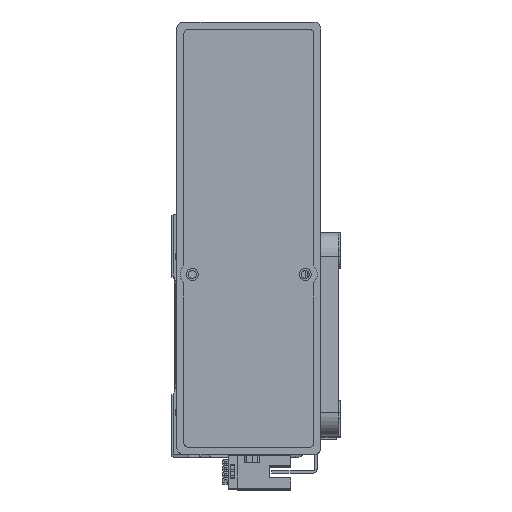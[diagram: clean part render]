
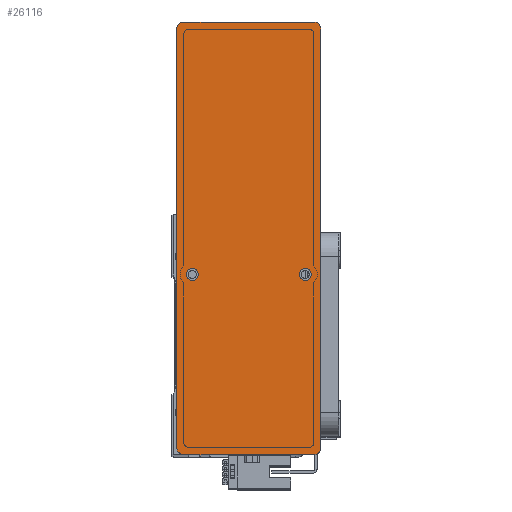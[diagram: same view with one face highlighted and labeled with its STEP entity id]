
A CAD part, top view. The second image highlights one B-rep face of the part: STEP entity #26116.
In plain terms, the highlighted planar face has unit normal (0, 0, 1) as drawn and (0, 0, -1) by its records, which use the part's own axes.
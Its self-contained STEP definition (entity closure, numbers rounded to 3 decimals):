
#623 = CIRCLE ( 'NONE', #30570, 3. ) ;
#632 = CARTESIAN_POINT ( 'NONE',  ( 0., 0., 0. ) ) ;
#1133 = EDGE_LOOP ( 'NONE', ( #26119, #19664 ) ) ;
#1216 = VECTOR ( 'NONE', #31969, 1000. ) ;
#1310 = CARTESIAN_POINT ( 'NONE',  ( 87., -27., 0. ) ) ;
#2389 = VERTEX_POINT ( 'NONE', #4249 ) ;
#2468 = EDGE_CURVE ( 'NONE', #34123, #2389, #3287, .T. ) ;
#3223 = VERTEX_POINT ( 'NONE', #14093 ) ;
#3287 = CIRCLE ( 'NONE', #42448, 3. ) ;
#3764 = VERTEX_POINT ( 'NONE', #41554 ) ;
#3772 = ORIENTED_EDGE ( 'NONE', *, *, #45478, .F. ) ;
#4000 = EDGE_CURVE ( 'NONE', #18120, #8882, #18622, .T. ) ;
#4053 = DIRECTION ( 'NONE',  ( 0., 0., -1. ) ) ;
#4249 = CARTESIAN_POINT ( 'NONE',  ( 87., -30., 0. ) ) ;
#4830 = DIRECTION ( 'NONE',  ( 1., 0., 0. ) ) ;
#4857 = DIRECTION ( 'NONE',  ( 1., 0., 0. ) ) ;
#5363 = EDGE_LOOP ( 'NONE', ( #24091, #3772 ) ) ;
#5371 = CARTESIAN_POINT ( 'NONE',  ( -15., -23.5, 0. ) ) ;
#5560 = DIRECTION ( 'NONE',  ( 0., 0., -1. ) ) ;
#6035 = ORIENTED_EDGE ( 'NONE', *, *, #4000, .F. ) ;
#6158 = CARTESIAN_POINT ( 'NONE',  ( 90., 27., 0. ) ) ;
#6210 = CARTESIAN_POINT ( 'NONE',  ( 90., 30., 0. ) ) ;
#6299 = AXIS2_PLACEMENT_3D ( 'NONE', #17220, #41998, #20804 ) ;
#7146 = CARTESIAN_POINT ( 'NONE',  ( -17.5, 23.5, 0. ) ) ;
#7288 = ORIENTED_EDGE ( 'NONE', *, *, #21676, .T. ) ;
#7439 = CARTESIAN_POINT ( 'NONE',  ( -12.5, 23.5, 0. ) ) ;
#8178 = EDGE_CURVE ( 'NONE', #9475, #8882, #41249, .T. ) ;
#8475 = AXIS2_PLACEMENT_3D ( 'NONE', #20286, #44993, #23830 ) ;
#8882 = VERTEX_POINT ( 'NONE', #18127 ) ;
#8927 = DIRECTION ( 'NONE',  ( -1., 0., 0. ) ) ;
#9318 = ORIENTED_EDGE ( 'NONE', *, *, #8178, .T. ) ;
#9360 = EDGE_CURVE ( 'NONE', #9475, #39213, #42317, .T. ) ;
#9475 = VERTEX_POINT ( 'NONE', #11849 ) ;
#10106 = DIRECTION ( 'NONE',  ( 0., -1., 0. ) ) ;
#10578 = LINE ( 'NONE', #17717, #1216 ) ;
#10992 = DIRECTION ( 'NONE',  ( 0., 0., -1. ) ) ;
#11222 = EDGE_CURVE ( 'NONE', #3223, #18629, #43788, .T. ) ;
#11790 = FACE_BOUND ( 'NONE', #1133, .T. ) ;
#11849 = CARTESIAN_POINT ( 'NONE',  ( -90., 27., 0. ) ) ;
#12800 = AXIS2_PLACEMENT_3D ( 'NONE', #32177, #10992, #35688 ) ;
#13043 = AXIS2_PLACEMENT_3D ( 'NONE', #25160, #4053, #28742 ) ;
#13630 = CIRCLE ( 'NONE', #41329, 2.5 ) ;
#13851 = CIRCLE ( 'NONE', #13043, 2.5 ) ;
#14093 = CARTESIAN_POINT ( 'NONE',  ( -17.5, -23.5, 0. ) ) ;
#14853 = VERTEX_POINT ( 'NONE', #7439 ) ;
#15192 = LINE ( 'NONE', #18822, #32909 ) ;
#16779 = CARTESIAN_POINT ( 'NONE',  ( 87., 30., 0. ) ) ;
#17220 = CARTESIAN_POINT ( 'NONE',  ( -87., 27., 0. ) ) ;
#17717 = CARTESIAN_POINT ( 'NONE',  ( 90., -30., 0. ) ) ;
#17935 = DIRECTION ( 'NONE',  ( 0., 0., -1. ) ) ;
#18120 = VERTEX_POINT ( 'NONE', #16779 ) ;
#18127 = CARTESIAN_POINT ( 'NONE',  ( -87., 30., 0. ) ) ;
#18622 = LINE ( 'NONE', #6210, #28052 ) ;
#18629 = VERTEX_POINT ( 'NONE', #23102 ) ;
#18822 = CARTESIAN_POINT ( 'NONE',  ( 90., -30., 0. ) ) ;
#19664 = ORIENTED_EDGE ( 'NONE', *, *, #43682, .F. ) ;
#20286 = CARTESIAN_POINT ( 'NONE',  ( -15., -23.5, 0. ) ) ;
#20804 = DIRECTION ( 'NONE',  ( 1., 0., 0. ) ) ;
#21472 = ORIENTED_EDGE ( 'NONE', *, *, #2468, .T. ) ;
#21676 = EDGE_CURVE ( 'NONE', #3764, #39213, #40362, .T. ) ;
#23102 = CARTESIAN_POINT ( 'NONE',  ( -12.5, -23.5, 0. ) ) ;
#23478 = VECTOR ( 'NONE', #10106, 1000. ) ;
#23830 = DIRECTION ( 'NONE',  ( -1., 0., 0. ) ) ;
#24091 = ORIENTED_EDGE ( 'NONE', *, *, #11222, .F. ) ;
#25160 = CARTESIAN_POINT ( 'NONE',  ( -15., 23.5, 0. ) ) ;
#25644 = ORIENTED_EDGE ( 'NONE', *, *, #42619, .F. ) ;
#25968 = DIRECTION ( 'NONE',  ( 0., 0., -1. ) ) ;
#26116 = ADVANCED_FACE ( 'NONE', ( #11790, #44951, #36671 ), #28885, .F. ) ;
#26119 = ORIENTED_EDGE ( 'NONE', *, *, #34054, .F. ) ;
#26486 = VERTEX_POINT ( 'NONE', #6158 ) ;
#26702 = CARTESIAN_POINT ( 'NONE',  ( 87., 27., 0. ) ) ;
#27327 = DIRECTION ( 'NONE',  ( -1., 0., 0. ) ) ;
#28052 = VECTOR ( 'NONE', #27327, 1000. ) ;
#28343 = ORIENTED_EDGE ( 'NONE', *, *, #9360, .F. ) ;
#28742 = DIRECTION ( 'NONE',  ( -1., 0., 0. ) ) ;
#28885 = PLANE ( 'NONE',  #31749 ) ;
#29002 = ORIENTED_EDGE ( 'NONE', *, *, #38064, .F. ) ;
#30064 = DIRECTION ( 'NONE',  ( 0., 0., -1. ) ) ;
#30133 = AXIS2_PLACEMENT_3D ( 'NONE', #39141, #17935, #42691 ) ;
#30245 = DIRECTION ( 'NONE',  ( 1., 0., 0. ) ) ;
#30570 = AXIS2_PLACEMENT_3D ( 'NONE', #26702, #5560, #30245 ) ;
#31261 = CARTESIAN_POINT ( 'NONE',  ( -90., -30., 0. ) ) ;
#31749 = AXIS2_PLACEMENT_3D ( 'NONE', #632, #42897, #32417 ) ;
#31969 = DIRECTION ( 'NONE',  ( 0., 1., 0. ) ) ;
#32177 = CARTESIAN_POINT ( 'NONE',  ( -15., 23.5, 0. ) ) ;
#32409 = ORIENTED_EDGE ( 'NONE', *, *, #42842, .T. ) ;
#32417 = DIRECTION ( 'NONE',  ( 1., 0., 0. ) ) ;
#32432 = CARTESIAN_POINT ( 'NONE',  ( 90., -27., 0. ) ) ;
#32909 = VECTOR ( 'NONE', #4830, 1000. ) ;
#33273 = CARTESIAN_POINT ( 'NONE',  ( -90., -27., 0. ) ) ;
#34054 = EDGE_CURVE ( 'NONE', #36420, #14853, #13851, .T. ) ;
#34123 = VERTEX_POINT ( 'NONE', #32432 ) ;
#35688 = DIRECTION ( 'NONE',  ( -1., 0., 0. ) ) ;
#36420 = VERTEX_POINT ( 'NONE', #7146 ) ;
#36671 = FACE_OUTER_BOUND ( 'NONE', #45750, .T. ) ;
#38064 = EDGE_CURVE ( 'NONE', #3764, #2389, #15192, .T. ) ;
#39141 = CARTESIAN_POINT ( 'NONE',  ( -87., -27., 0. ) ) ;
#39213 = VERTEX_POINT ( 'NONE', #33273 ) ;
#40362 = CIRCLE ( 'NONE', #30133, 3. ) ;
#41249 = CIRCLE ( 'NONE', #6299, 3. ) ;
#41329 = AXIS2_PLACEMENT_3D ( 'NONE', #5371, #30064, #8927 ) ;
#41400 = CIRCLE ( 'NONE', #12800, 2.5 ) ;
#41554 = CARTESIAN_POINT ( 'NONE',  ( -87., -30., 0. ) ) ;
#41998 = DIRECTION ( 'NONE',  ( 0., 0., -1. ) ) ;
#42317 = LINE ( 'NONE', #31261, #23478 ) ;
#42448 = AXIS2_PLACEMENT_3D ( 'NONE', #1310, #25968, #4857 ) ;
#42619 = EDGE_CURVE ( 'NONE', #34123, #26486, #10578, .T. ) ;
#42691 = DIRECTION ( 'NONE',  ( 1., 0., 0. ) ) ;
#42842 = EDGE_CURVE ( 'NONE', #18120, #26486, #623, .T. ) ;
#42897 = DIRECTION ( 'NONE',  ( 0., 0., 1. ) ) ;
#43682 = EDGE_CURVE ( 'NONE', #14853, #36420, #41400, .T. ) ;
#43788 = CIRCLE ( 'NONE', #8475, 2.5 ) ;
#44951 = FACE_BOUND ( 'NONE', #5363, .T. ) ;
#44993 = DIRECTION ( 'NONE',  ( 0., 0., -1. ) ) ;
#45478 = EDGE_CURVE ( 'NONE', #18629, #3223, #13630, .T. ) ;
#45750 = EDGE_LOOP ( 'NONE', ( #25644, #21472, #29002, #7288, #28343, #9318, #6035, #32409 ) ) ;
